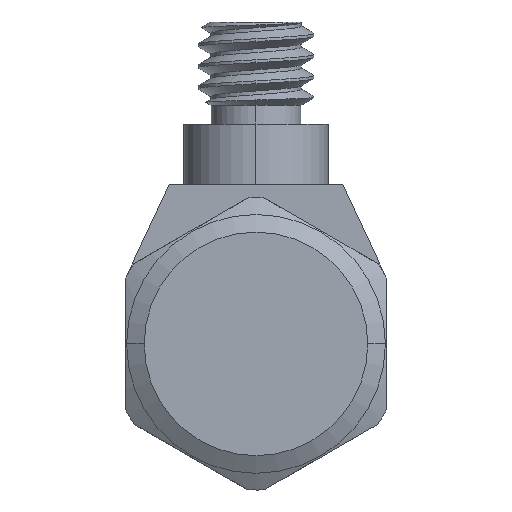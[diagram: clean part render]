
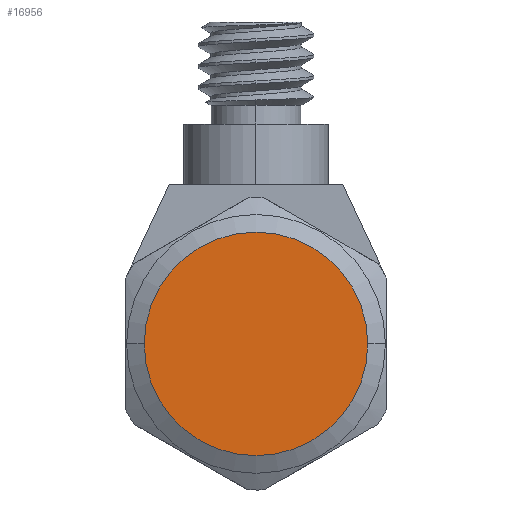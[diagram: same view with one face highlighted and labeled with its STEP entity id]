
A CAD part, front view. The second image highlights one B-rep face of the part: STEP entity #16956.
In plain terms, the highlighted planar face has unit normal (0, -1, 0).
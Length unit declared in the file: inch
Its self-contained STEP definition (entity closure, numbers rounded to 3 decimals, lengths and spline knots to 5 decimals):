
#1014 = VERTEX_POINT ( 'NONE', #3204 ) ;
#1109 = CARTESIAN_POINT ( 'NONE',  ( 0., -0.177, 0. ) ) ;
#1466 = ORIENTED_EDGE ( 'NONE', *, *, #21366, .F. ) ;
#2825 = CARTESIAN_POINT ( 'NONE',  ( 0., -0.177, 0. ) ) ;
#3204 = CARTESIAN_POINT ( 'NONE',  ( -0.12045, -0.177, 0. ) ) ;
#3406 = DIRECTION ( 'NONE',  ( -1., 0., 0. ) ) ;
#3604 = AXIS2_PLACEMENT_3D ( 'NONE', #4644, #20541, #6888 ) ;
#4545 = PLANE ( 'NONE',  #3604 ) ;
#4644 = CARTESIAN_POINT ( 'NONE',  ( 0., -0.177, 0.12045 ) ) ;
#5159 = DIRECTION ( 'NONE',  ( -1., 0., 0. ) ) ;
#5555 = EDGE_CURVE ( 'NONE', #1014, #24473, #19720, .T. ) ;
#6888 = DIRECTION ( 'NONE',  ( -1., 0., 0. ) ) ;
#6890 = CARTESIAN_POINT ( 'NONE',  ( 0.12045, -0.177, 0. ) ) ;
#6934 = AXIS2_PLACEMENT_3D ( 'NONE', #2825, #18726, #5159 ) ;
#7049 = CIRCLE ( 'NONE', #19518, 0.12045 ) ;
#15666 = ORIENTED_EDGE ( 'NONE', *, *, #5555, .F. ) ;
#16956 = ADVANCED_FACE ( 'NONE', ( #29453 ), #4545, .F. ) ;
#17057 = DIRECTION ( 'NONE',  ( 0., 1., 0. ) ) ;
#18726 = DIRECTION ( 'NONE',  ( 0., 1., 0. ) ) ;
#19518 = AXIS2_PLACEMENT_3D ( 'NONE', #1109, #17057, #3406 ) ;
#19720 = CIRCLE ( 'NONE', #6934, 0.12045 ) ;
#20541 = DIRECTION ( 'NONE',  ( 0., 1., 0. ) ) ;
#21366 = EDGE_CURVE ( 'NONE', #24473, #1014, #7049, .T. ) ;
#23535 = EDGE_LOOP ( 'NONE', ( #15666, #1466 ) ) ;
#24473 = VERTEX_POINT ( 'NONE', #6890 ) ;
#29453 = FACE_OUTER_BOUND ( 'NONE', #23535, .T. ) ;
